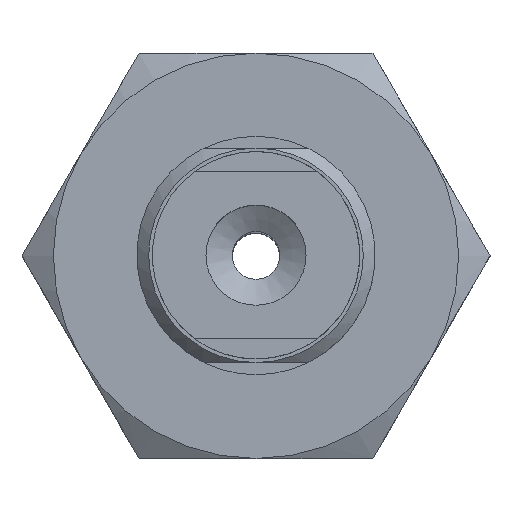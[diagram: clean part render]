
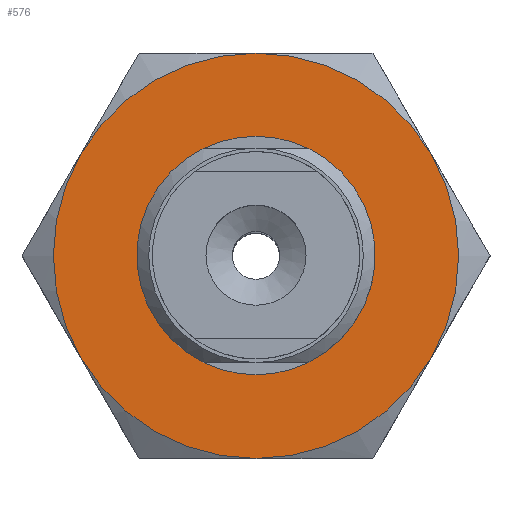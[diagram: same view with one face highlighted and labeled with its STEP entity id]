
A CAD part, top view. The second image highlights one B-rep face of the part: STEP entity #576.
In plain terms, the highlighted planar face has unit normal (0, 0, 1).
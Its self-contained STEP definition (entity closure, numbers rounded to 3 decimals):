
#576=ADVANCED_FACE('',(#812,#813),#814,.T.);
#812=FACE_BOUND('',#1143,.T.);
#813=FACE_OUTER_BOUND('',#1144,.T.);
#814=PLANE('',#1145);
#1143=EDGE_LOOP('',(#1766));
#1144=EDGE_LOOP('',(#1767,#1768,#1769,#1770,#1771,#1772));
#1145=AXIS2_PLACEMENT_3D('',#1773,#1774,#1775);
#1766=ORIENTED_EDGE('',*,*,#2294,.F.);
#1767=ORIENTED_EDGE('',*,*,#2299,.F.);
#1768=ORIENTED_EDGE('',*,*,#2301,.F.);
#1769=ORIENTED_EDGE('',*,*,#2280,.F.);
#1770=ORIENTED_EDGE('',*,*,#2275,.F.);
#1771=ORIENTED_EDGE('',*,*,#2303,.F.);
#1772=ORIENTED_EDGE('',*,*,#2300,.F.);
#1773=CARTESIAN_POINT('',(-9.815,-8.5,4.0));
#1774=DIRECTION('',(0.0,0.0,1.0));
#1775=DIRECTION('',(1.0,0.0,0.0));
#2275=EDGE_CURVE('',#2572,#2575,#2576,.T.);
#2280=EDGE_CURVE('',#2575,#2560,#2582,.T.);
#2294=EDGE_CURVE('',#2606,#2606,#2607,.T.);
#2299=EDGE_CURVE('',#2601,#2610,#2613,.T.);
#2300=EDGE_CURVE('',#2610,#2595,#2614,.T.);
#2301=EDGE_CURVE('',#2560,#2601,#2615,.T.);
#2303=EDGE_CURVE('',#2595,#2572,#2617,.T.);
#2560=VERTEX_POINT('',#3090);
#2572=VERTEX_POINT('',#3120);
#2575=VERTEX_POINT('',#3131);
#2576=CIRCLE('',#3132,8.5);
#2582=CIRCLE('',#3154,8.5);
#2595=VERTEX_POINT('',#3184);
#2601=VERTEX_POINT('',#3203);
#2606=VERTEX_POINT('',#3216);
#2607=CIRCLE('',#3217,4.5);
#2610=VERTEX_POINT('',#3224);
#2613=CIRCLE('',#3235,8.5);
#2614=CIRCLE('',#3236,8.5);
#2615=CIRCLE('',#3237,8.5);
#2617=CIRCLE('',#3239,8.5);
#3090=CARTESIAN_POINT('',(7.361,-4.25,4.0));
#3120=CARTESIAN_POINT('',(0.,8.5,4.0));
#3131=CARTESIAN_POINT('',(7.361,4.25,4.0));
#3132=AXIS2_PLACEMENT_3D('',#3616,#3617,#3618);
#3154=AXIS2_PLACEMENT_3D('',#3619,#3620,#3621);
#3184=CARTESIAN_POINT('',(-7.361,4.25,4.0));
#3203=CARTESIAN_POINT('',(0.,-8.5,4.0));
#3216=CARTESIAN_POINT('',(0.0,-4.5,4.0));
#3217=AXIS2_PLACEMENT_3D('',#3630,#3631,#3632);
#3224=CARTESIAN_POINT('',(-7.361,-4.25,4.0));
#3235=AXIS2_PLACEMENT_3D('',#3636,#3637,#3638);
#3236=AXIS2_PLACEMENT_3D('',#3639,#3640,#3641);
#3237=AXIS2_PLACEMENT_3D('',#3642,#3643,#3644);
#3239=AXIS2_PLACEMENT_3D('',#3648,#3649,#3650);
#3616=CARTESIAN_POINT('',(0.,0.,4.0));
#3617=DIRECTION('',(0.,0.,-1.0));
#3618=DIRECTION('',(0.866,0.5,0.));
#3619=CARTESIAN_POINT('',(0.,0.,4.0));
#3620=DIRECTION('',(0.,0.,-1.0));
#3621=DIRECTION('',(0.866,0.5,0.));
#3630=CARTESIAN_POINT('',(0.0,0.0,4.0));
#3631=DIRECTION('',(0.0,0.,1.0));
#3632=DIRECTION('',(0.0,-1.0,0.));
#3636=CARTESIAN_POINT('',(0.,0.,4.0));
#3637=DIRECTION('',(0.,0.,-1.0));
#3638=DIRECTION('',(0.866,0.5,0.));
#3639=CARTESIAN_POINT('',(0.,0.,4.0));
#3640=DIRECTION('',(0.,0.,-1.0));
#3641=DIRECTION('',(0.866,0.5,0.));
#3642=CARTESIAN_POINT('',(0.,0.,4.0));
#3643=DIRECTION('',(0.,0.,-1.0));
#3644=DIRECTION('',(0.866,0.5,0.));
#3648=CARTESIAN_POINT('',(0.,0.,4.0));
#3649=DIRECTION('',(0.,0.,-1.0));
#3650=DIRECTION('',(0.866,0.5,0.));
